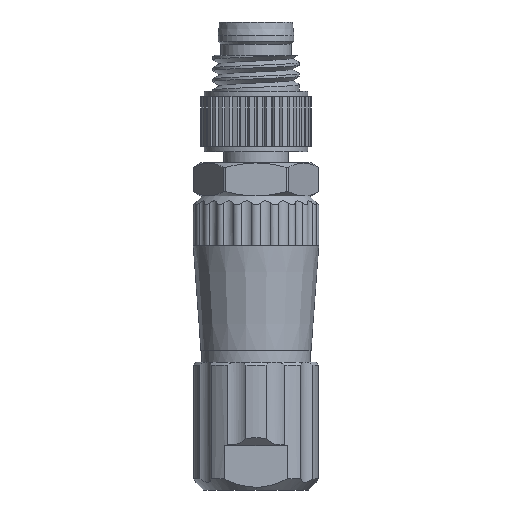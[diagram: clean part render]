
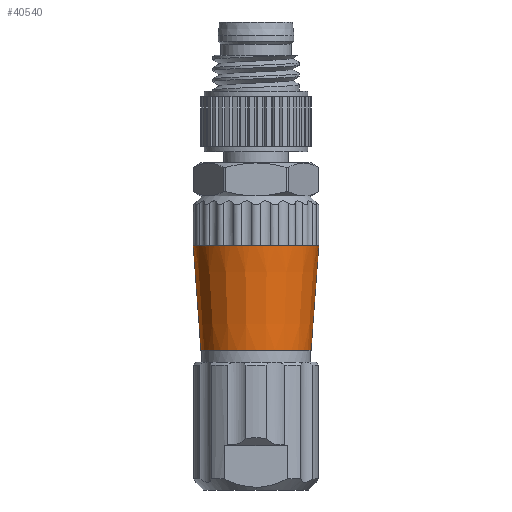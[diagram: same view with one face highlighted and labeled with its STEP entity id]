
A CAD part, left-side view. The second image highlights one B-rep face of the part: STEP entity #40540.
In plain terms, the highlighted conical face has half-angle 4.214 degrees and reference radius 5.7 mm.
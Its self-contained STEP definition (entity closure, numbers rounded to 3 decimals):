
#489 = EDGE_CURVE ( 'NONE', #52439, #32833, #1008, .T. ) ;
#803 = CARTESIAN_POINT ( 'NONE',  ( 0., 0., -20.3 ) ) ;
#1008 = LINE ( 'NONE', #40467, #22515 ) ;
#1337 = EDGE_CURVE ( 'NONE', #51760, #11106, #3223, .T. ) ;
#1983 = VERTEX_POINT ( 'NONE', #37625 ) ;
#2048 = ORIENTED_EDGE ( 'NONE', *, *, #48560, .T. ) ;
#3221 = ORIENTED_EDGE ( 'NONE', *, *, #489, .F. ) ;
#3223 = CIRCLE ( 'NONE', #34957, 5.7 ) ;
#3514 = DIRECTION ( 'NONE',  ( 1., 0., 0. ) ) ;
#5171 = ORIENTED_EDGE ( 'NONE', *, *, #54715, .T. ) ;
#6438 = ORIENTED_EDGE ( 'NONE', *, *, #40105, .T. ) ;
#7226 = DIRECTION ( 'NONE',  ( 1., 0., 0. ) ) ;
#7775 = CIRCLE ( 'NONE', #34983, 5.7 ) ;
#7810 = ORIENTED_EDGE ( 'NONE', *, *, #40499, .T. ) ;
#8341 = CARTESIAN_POINT ( 'NONE',  ( 0., 0., -20.3 ) ) ;
#8484 = CARTESIAN_POINT ( 'NONE',  ( -3.35, 4.611, -20.3 ) ) ;
#8946 = VERTEX_POINT ( 'NONE', #31452 ) ;
#9107 = AXIS2_PLACEMENT_3D ( 'NONE', #42703, #47240, #46401 ) ;
#10643 = CARTESIAN_POINT ( 'NONE',  ( -4.611, -3.35, -20.3 ) ) ;
#10832 = DIRECTION ( 'NONE',  ( 0., 0., -1. ) ) ;
#11106 = VERTEX_POINT ( 'NONE', #40226 ) ;
#11261 = DIRECTION ( 'NONE',  ( 1., 0., 0. ) ) ;
#11318 = EDGE_LOOP ( 'NONE', ( #5171, #11934, #41236, #19516, #35265, #51973, #3221, #6438, #20198, #2048, #27178, #26438, #7810 ) ) ;
#11615 = CARTESIAN_POINT ( 'NONE',  ( 0., 0., -20.3 ) ) ;
#11706 = CIRCLE ( 'NONE', #15365, 5.7 ) ;
#11934 = ORIENTED_EDGE ( 'NONE', *, *, #46008, .T. ) ;
#12119 = CARTESIAN_POINT ( 'NONE',  ( -5.421, -1.761, -20.3 ) ) ;
#12318 = FACE_OUTER_BOUND ( 'NONE', #11318, .T. ) ;
#12341 = EDGE_CURVE ( 'NONE', #16133, #50550, #15499, .T. ) ;
#13215 = CARTESIAN_POINT ( 'NONE',  ( -5.7, 0., -20.3 ) ) ;
#13938 = DIRECTION ( 'NONE',  ( 1., 0., 0. ) ) ;
#15108 = CARTESIAN_POINT ( 'NONE',  ( 0., 0., -20.3 ) ) ;
#15365 = AXIS2_PLACEMENT_3D ( 'NONE', #803, #35728, #22382 ) ;
#15499 = CIRCLE ( 'NONE', #50785, 5.7 ) ;
#16017 = DIRECTION ( 'NONE',  ( 0., 0.073, 0.997 ) ) ;
#16133 = VERTEX_POINT ( 'NONE', #12119 ) ;
#16245 = AXIS2_PLACEMENT_3D ( 'NONE', #22298, #23137, #48979 ) ;
#16377 = CIRCLE ( 'NONE', #9107, 5.7 ) ;
#16444 = CIRCLE ( 'NONE', #48183, 5.7 ) ;
#16764 = EDGE_CURVE ( 'NONE', #33829, #20603, #16444, .T. ) ;
#16861 = DIRECTION ( 'NONE',  ( 0., 0., 1. ) ) ;
#17183 = CIRCLE ( 'NONE', #34461, 5. ) ;
#18333 = CARTESIAN_POINT ( 'NONE',  ( -1.75, -5.425, -20.3 ) ) ;
#19354 = CIRCLE ( 'NONE', #49264, 5.7 ) ;
#19516 = ORIENTED_EDGE ( 'NONE', *, *, #1337, .T. ) ;
#19721 = LINE ( 'NONE', #37043, #24969 ) ;
#20181 = CARTESIAN_POINT ( 'NONE',  ( 0., 0., -20.3 ) ) ;
#20198 = ORIENTED_EDGE ( 'NONE', *, *, #16764, .T. ) ;
#20603 = VERTEX_POINT ( 'NONE', #22995 ) ;
#22298 = CARTESIAN_POINT ( 'NONE',  ( 0., 0., -20.3 ) ) ;
#22382 = DIRECTION ( 'NONE',  ( 1., 0., 0. ) ) ;
#22515 = VECTOR ( 'NONE', #41028, 1000. ) ;
#22614 = AXIS2_PLACEMENT_3D ( 'NONE', #8341, #16861, #3514 ) ;
#22785 = CARTESIAN_POINT ( 'NONE',  ( 0., 0., -20.3 ) ) ;
#22995 = CARTESIAN_POINT ( 'NONE',  ( -3.35, -4.611, -20.3 ) ) ;
#23137 = DIRECTION ( 'NONE',  ( 0., 0., -1. ) ) ;
#24888 = VERTEX_POINT ( 'NONE', #10643 ) ;
#24969 = VECTOR ( 'NONE', #16017, 1000. ) ;
#25069 = CARTESIAN_POINT ( 'NONE',  ( 0., -5.7, -20.3 ) ) ;
#26248 = CARTESIAN_POINT ( 'NONE',  ( -1.75, 5.425, -20.3 ) ) ;
#26354 = CIRCLE ( 'NONE', #16245, 5.7 ) ;
#26438 = ORIENTED_EDGE ( 'NONE', *, *, #12341, .T. ) ;
#26492 = DIRECTION ( 'NONE',  ( 1., 0., 0. ) ) ;
#27178 = ORIENTED_EDGE ( 'NONE', *, *, #44739, .T. ) ;
#28952 = DIRECTION ( 'NONE',  ( 0., 0., -1. ) ) ;
#29069 = EDGE_CURVE ( 'NONE', #44659, #51760, #55162, .T. ) ;
#31268 = DIRECTION ( 'NONE',  ( 0., 0., -1. ) ) ;
#31452 = CARTESIAN_POINT ( 'NONE',  ( 0., 5., -29.8 ) ) ;
#32157 = DIRECTION ( 'NONE',  ( 1., 0., 0. ) ) ;
#32833 = VERTEX_POINT ( 'NONE', #37656 ) ;
#33337 = CARTESIAN_POINT ( 'NONE',  ( -4.611, 3.35, -20.3 ) ) ;
#33829 = VERTEX_POINT ( 'NONE', #18333 ) ;
#33997 = DIRECTION ( 'NONE',  ( 1., 0., 0. ) ) ;
#34461 = AXIS2_PLACEMENT_3D ( 'NONE', #45641, #37687, #11261 ) ;
#34957 = AXIS2_PLACEMENT_3D ( 'NONE', #48856, #31268, #13938 ) ;
#34983 = AXIS2_PLACEMENT_3D ( 'NONE', #11615, #28952, #38321 ) ;
#35265 = ORIENTED_EDGE ( 'NONE', *, *, #53479, .F. ) ;
#35301 = CONICAL_SURFACE ( 'NONE', #22614, 5.7, 0.074 ) ;
#35728 = DIRECTION ( 'NONE',  ( 0., 0., -1. ) ) ;
#37043 = CARTESIAN_POINT ( 'NONE',  ( 0., 36775.617, 499000. ) ) ;
#37625 = CARTESIAN_POINT ( 'NONE',  ( -5.421, 1.761, -20.3 ) ) ;
#37656 = CARTESIAN_POINT ( 'NONE',  ( 0., -5., -29.8 ) ) ;
#37687 = DIRECTION ( 'NONE',  ( 0., 0., 1. ) ) ;
#37897 = DIRECTION ( 'NONE',  ( 0., 0., -1. ) ) ;
#38321 = DIRECTION ( 'NONE',  ( 1., 0., 0. ) ) ;
#40105 = EDGE_CURVE ( 'NONE', #52439, #33829, #26354, .T. ) ;
#40226 = CARTESIAN_POINT ( 'NONE',  ( 0., 5.7, -20.3 ) ) ;
#40465 = VERTEX_POINT ( 'NONE', #33337 ) ;
#40467 = CARTESIAN_POINT ( 'NONE',  ( 0., -36775.617, 499000. ) ) ;
#40499 = EDGE_CURVE ( 'NONE', #50550, #1983, #16377, .T. ) ;
#40540 = ADVANCED_FACE ( 'NONE', ( #12318 ), #35301, .T. ) ;
#41028 = DIRECTION ( 'NONE',  ( 0., 0.073, -0.997 ) ) ;
#41047 = CARTESIAN_POINT ( 'NONE',  ( 0., 0., -20.3 ) ) ;
#41236 = ORIENTED_EDGE ( 'NONE', *, *, #29069, .T. ) ;
#41512 = EDGE_CURVE ( 'NONE', #8946, #32833, #17183, .T. ) ;
#41761 = DIRECTION ( 'NONE',  ( 0., 0., -1. ) ) ;
#42703 = CARTESIAN_POINT ( 'NONE',  ( 0., 0., -20.3 ) ) ;
#44089 = DIRECTION ( 'NONE',  ( 0., 0., -1. ) ) ;
#44659 = VERTEX_POINT ( 'NONE', #8484 ) ;
#44739 = EDGE_CURVE ( 'NONE', #24888, #16133, #11706, .T. ) ;
#45641 = CARTESIAN_POINT ( 'NONE',  ( 0., 0., -29.8 ) ) ;
#45728 = CIRCLE ( 'NONE', #55698, 5.7 ) ;
#46008 = EDGE_CURVE ( 'NONE', #40465, #44659, #19354, .T. ) ;
#46401 = DIRECTION ( 'NONE',  ( 1., 0., 0. ) ) ;
#47240 = DIRECTION ( 'NONE',  ( 0., 0., -1. ) ) ;
#48183 = AXIS2_PLACEMENT_3D ( 'NONE', #41047, #37897, #7226 ) ;
#48560 = EDGE_CURVE ( 'NONE', #20603, #24888, #45728, .T. ) ;
#48856 = CARTESIAN_POINT ( 'NONE',  ( 0., 0., -20.3 ) ) ;
#48979 = DIRECTION ( 'NONE',  ( 1., 0., 0. ) ) ;
#49264 = AXIS2_PLACEMENT_3D ( 'NONE', #51880, #52425, #33997 ) ;
#50273 = DIRECTION ( 'NONE',  ( 1., 0., 0. ) ) ;
#50550 = VERTEX_POINT ( 'NONE', #13215 ) ;
#50616 = AXIS2_PLACEMENT_3D ( 'NONE', #22785, #44089, #26492 ) ;
#50785 = AXIS2_PLACEMENT_3D ( 'NONE', #15108, #10832, #32157 ) ;
#51760 = VERTEX_POINT ( 'NONE', #26248 ) ;
#51880 = CARTESIAN_POINT ( 'NONE',  ( 0., 0., -20.3 ) ) ;
#51973 = ORIENTED_EDGE ( 'NONE', *, *, #41512, .T. ) ;
#52425 = DIRECTION ( 'NONE',  ( 0., 0., -1. ) ) ;
#52439 = VERTEX_POINT ( 'NONE', #25069 ) ;
#53479 = EDGE_CURVE ( 'NONE', #8946, #11106, #19721, .T. ) ;
#54715 = EDGE_CURVE ( 'NONE', #1983, #40465, #7775, .T. ) ;
#55162 = CIRCLE ( 'NONE', #50616, 5.7 ) ;
#55698 = AXIS2_PLACEMENT_3D ( 'NONE', #20181, #41761, #50273 ) ;
